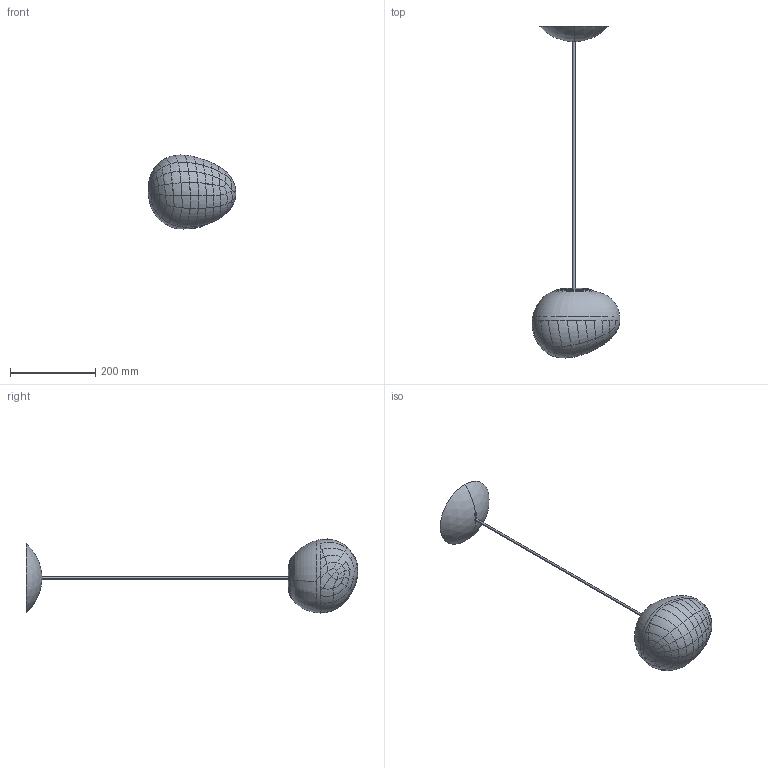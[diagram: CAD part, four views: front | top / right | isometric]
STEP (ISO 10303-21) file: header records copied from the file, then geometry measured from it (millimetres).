
FILE_DESCRIPTION (( 'STEP AP203' ), '1' );
FILE_NAME ('168_MIDI_S_LD_3D.STEP', '2021-03-31T09:49:41', ( '' ), ( '' ), 'SwSTEP 2.0', 'SolidWorks 2021', '' );
FILE_SCHEMA (( 'CONFIG_CONTROL_DESIGN' ));
Length unit declared in the file: millimetre
Products named in the file (1): 168_MIDI_S_LD_3D
Bounding box: 205.48 x 777.55 x 173.34 mm (x, y, z)
Volume: 750092.2 mm3; surface area: 278314.4 mm2
Topology: 4 solids, 4 shells, 1202 faces, 2874 edges, 1642 vertices
Faces by surface type: bspline 576, plane 174, cylinder 159, torus 114, cone 95, sphere 84
Entity records: 258922 total; most frequent: CARTESIAN_POINT 236143, ORIENTED_EDGE 5594, DIRECTION 3482, EDGE_CURVE 2797, VERTEX_POINT 1634, AXIS2_PLACEMENT_3D 1526, B_SPLINE_CURVE_WITH_KNOTS 1340, EDGE_LOOP 1239
